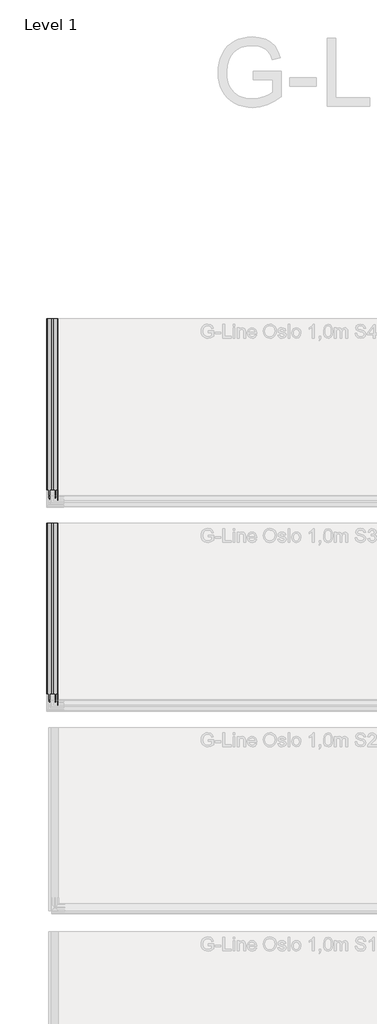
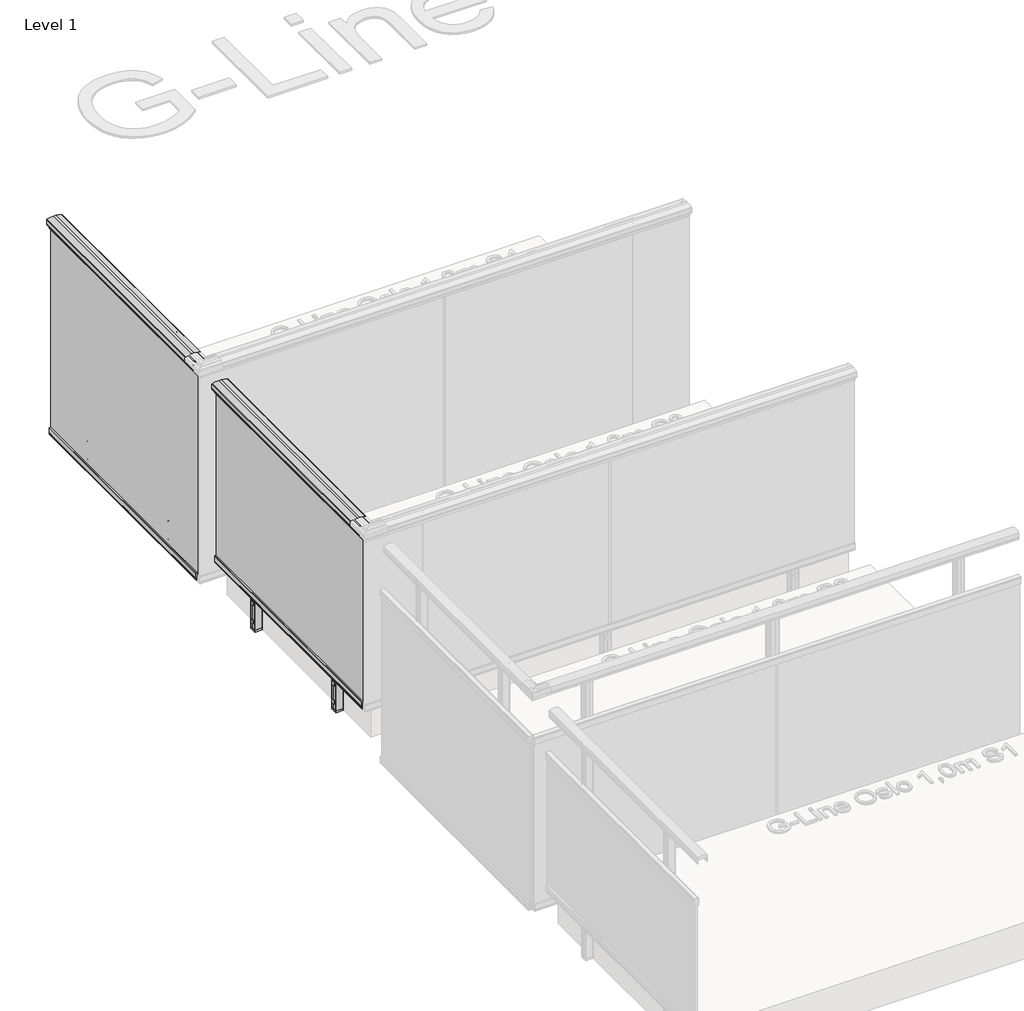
# One storey, part 44 of 66: 2 railings.
"""IFC4 building model written with IfcOpenShell, lengths in millimetres."""

from ifc_helpers import new_model, si_unit, point, frame, frame_2d, origin, place, context, project, spatial, polyline, circle_curve, trimmed, segment, composite_curve, outline, extrude, element, save

model = new_model("IFC4")

# Units and contexts
model_context = context("Model", 3, world=origin())
ifc_project = project(units=[si_unit("LENGTHUNIT", "METRE", prefix="MILLI")], contexts=[model_context])

# Site, building, storey
site = spatial("IfcSite", under=ifc_project)
building = spatial("IfcBuilding", under=site)
storey = spatial("IfcBuildingStorey", under=building, Name="Level 1", Elevation=0.0)

# Railings
placement = place(None, origin())
element("IfcRailing", 1, ObjectType="G-Line Oslo 1,0m  S4", at=placement, inside=storey, context=model_context, shape_type="SweptSolid", body=[
    extrude(outline(composite_curve([segment(polyline([(970.6825033, 4424.0540283), (970.0570224, 4424.6795093), (969.4717338, 4424.0942207), (965.5021186, 4424.0540283)]), True, "CONTINUOUS"), segment(trimmed(circle_curve(frame_2d((965.5021186, 4424.5540283)), 0.5), [point((965.5021186, 4424.0540283))], [point((965.0021186, 4424.5540283))], False, "CARTESIAN"), True, "CONTINUOUS"), segment(polyline([(965.0021186, 4424.5540283), (965.0021186, 4425.5540283), (979.5021186, 4425.5540283)]), True, "CONTINUOUS"), segment(trimmed(circle_curve(frame_2d((979.5021186, 4426.0540283)), 0.5), [point((979.5021186, 4425.5540283))], [point((980.0021186, 4426.0540283))], True, "CARTESIAN"), True, "CONTINUOUS"), segment(polyline([(980.0021186, 4426.0540283), (980.0021186, 4504.0540283)]), True, "CONTINUOUS"), segment(trimmed(circle_curve(frame_2d((979.5021186, 4504.0540283)), 0.5), [point((980.0021186, 4504.0540283))], [point((979.5021186, 4504.5540283))], True, "CARTESIAN"), True, "CONTINUOUS"), segment(polyline([(979.5021186, 4504.5540283), (965.0021186, 4504.5540283), (965.0021186, 4505.5540283)]), True, "CONTINUOUS"), segment(trimmed(circle_curve(frame_2d((965.5021186, 4505.5540283)), 0.5), [point((965.0021186, 4505.5540283))], [point((965.5021186, 4506.0540283))], False, "CARTESIAN"), True, "CONTINUOUS"), segment(polyline([(965.5021186, 4506.0540283), (969.2627449, 4506.0540283), (969.9177203, 4505.3990529), (970.5325033, 4506.0138359), (991.2139911, 4506.0540283)]), True, "CONTINUOUS"), segment(trimmed(circle_curve(frame_2d((991.2139911, 4503.0540283)), 3.0), [point((991.2139911, 4506.0540283))], [point((994.0180233, 4504.1205197))], False, "CARTESIAN"), True, "CONTINUOUS"), segment(trimmed(circle_curve(frame_2d((908.3938053, 4471.5540283)), 91.6083133), [point((994.0180233, 4504.1205197))], [point((1000.0021186, 4471.5540283))], False, "CARTESIAN"), True, "CONTINUOUS"), segment(polyline([(1000.0021186, 4471.5540283), (1000.0021186, 4458.5540283)]), True, "CONTINUOUS"), segment(trimmed(circle_curve(frame_2d((908.3938053, 4458.5540283)), 91.6083133), [point((1000.0021186, 4458.5540283))], [point((994.0180233, 4425.987537))], False, "CARTESIAN"), True, "CONTINUOUS"), segment(trimmed(circle_curve(frame_2d((991.2139911, 4427.0540283)), 3.0), [point((994.0180233, 4425.987537))], [point((991.2139911, 4424.0540283))], False, "CARTESIAN"), True, "CONTINUOUS"), segment(polyline([(991.2139911, 4424.0540283), (970.6825033, 4424.0540283)]), True, "CONTINUOUS")], self_intersect=False)), frame((0.0, 17100.2886441, 0.0), z_axis=(0.0, 1.0, 0.0), x_axis=(0.0, 0.0, 1.0)), (0.0, 0.0, 1.0), 1330.0),
    extrude(outline(composite_curve([segment(polyline([(941.0, 4455.8148386), (941.0, 4463.0547322)]), True, "CONTINUOUS"), segment(trimmed(circle_curve(frame_2d((941.5, 4463.0547322)), 0.5), [point((941.0, 4463.0547322))], [point((941.6964102, 4463.5145399))], False, "CARTESIAN"), True, "CONTINUOUS"), segment(polyline([(941.6964102, 4463.5145399), (969.6142612, 4463.5145399), (970.5701988, 4463.0913348), (971.5302866, 4463.5547322), (976.5, 4463.5547322)]), True, "CONTINUOUS"), segment(trimmed(circle_curve(frame_2d((976.5, 4462.0547322)), 1.5), [point((976.5, 4463.5547322))], [point((978.0, 4462.0547322))], False, "CARTESIAN"), True, "CONTINUOUS"), segment(polyline([(978.0, 4462.0547322), (978.0, 4440.0547322)]), True, "CONTINUOUS"), segment(trimmed(circle_curve(frame_2d((976.5, 4440.0547322)), 1.5), [point((978.0, 4440.0547322))], [point((976.5, 4438.5547322))], False, "CARTESIAN"), True, "CONTINUOUS"), segment(polyline([(976.5, 4438.5547322), (971.3802866, 4438.5949246), (970.5008136, 4439.0181297), (969.4642612, 4438.5547322), (941.5, 4438.5547322)]), True, "CONTINUOUS"), segment(trimmed(circle_curve(frame_2d((941.5, 4439.0547322)), 0.5), [point((941.5, 4438.5547322))], [point((941.0, 4439.0547322))], False, "CARTESIAN"), True, "CONTINUOUS"), segment(polyline([(941.0, 4439.0547322), (941.0, 4446.2948387), (941.0, 4455.8148386)]), True, "CONTINUOUS")], self_intersect=False)), frame((0.0, 17100.2886441, 0.0), z_axis=(0.0, 1.0, 0.0), x_axis=(0.0, 0.0, 1.0)), (0.0, 0.0, 1.0), 1330.0),
    extrude(outline(polyline([(4446.6747322, 18430.2886441), (4455.4347322, 18430.2886441), (4455.4347322, 17100.2886441), (4446.6747322, 17100.2886441), (4446.6747322, 18430.2886441)])), frame((0.0, 0.0, -200.0), z_axis=(0.0, 0.0, 1.0), x_axis=(1.0, 0.0, 0.0)), (0.0, 0.0, 1.0), 1180.0),
    extrude(outline(composite_curve([segment(polyline([(-163.0, 4446.2946259), (-163.0, 4439.0547322)]), True, "CONTINUOUS"), segment(trimmed(circle_curve(frame_2d((-163.5, 4439.0547322)), 0.5), [point((-163.0, 4439.0547322))], [point((-163.6964102, 4438.5949246))], False, "CARTESIAN"), True, "CONTINUOUS"), segment(polyline([(-163.6964102, 4438.5949246), (-191.6142612, 4438.5949246), (-192.5701988, 4439.0181297), (-193.5302866, 4438.5547322), (-198.5, 4438.5547322)]), True, "CONTINUOUS"), segment(trimmed(circle_curve(frame_2d((-198.5, 4440.0547322)), 1.5), [point((-198.5, 4438.5547322))], [point((-200.0, 4440.0547322))], False, "CARTESIAN"), True, "CONTINUOUS"), segment(polyline([(-200.0, 4440.0547322), (-200.0, 4462.0547322)]), True, "CONTINUOUS"), segment(trimmed(circle_curve(frame_2d((-198.5, 4462.0547322)), 1.5), [point((-200.0, 4462.0547322))], [point((-198.5, 4463.5547322))], False, "CARTESIAN"), True, "CONTINUOUS"), segment(polyline([(-198.5, 4463.5547322), (-193.3802866, 4463.5145399), (-192.5008136, 4463.0913348), (-191.4642612, 4463.5547322), (-163.5, 4463.5547322)]), True, "CONTINUOUS"), segment(trimmed(circle_curve(frame_2d((-163.5, 4463.0547322)), 0.5), [point((-163.5, 4463.5547322))], [point((-163.0, 4463.0547322))], False, "CARTESIAN"), True, "CONTINUOUS"), segment(polyline([(-163.0, 4463.0547322), (-163.0, 4455.8146258), (-163.0, 4446.2946259)]), True, "CONTINUOUS")], self_intersect=False)), frame((0.0, 17100.2886441, 0.0), z_axis=(0.0, 1.0, 0.0), x_axis=(0.0, 0.0, 1.0)), (0.0, 0.0, 1.0), 1330.0),
    extrude(outline(composite_curve([segment(polyline([(4504.0547322, 17399.4858571), (4504.0547322, 17382.4625571)]), True, "CONTINUOUS"), segment(trimmed(circle_curve(frame_2d((4501.8808192, 17382.4625571)), 2.173913), [point((4504.0547322, 17382.4625571))], [point((4501.8808192, 17380.2886441))], False, "CARTESIAN"), True, "CONTINUOUS"), segment(polyline([(4501.8808192, 17380.2886441), (4466.2286453, 17380.2886441)]), True, "CONTINUOUS"), segment(trimmed(circle_curve(frame_2d((4466.2286453, 17382.4625571)), 2.173913), [point((4466.2286453, 17380.2886441))], [point((4464.0547322, 17382.4625571))], False, "CARTESIAN"), True, "CONTINUOUS"), segment(polyline([(4464.0547322, 17382.4625571), (4464.0896821, 17399.520807), (4464.8575193, 17400.2886441), (4464.0896821, 17401.0564812), (4464.0547322, 17418.114731)]), True, "CONTINUOUS"), segment(trimmed(circle_curve(frame_2d((4466.2286453, 17418.114731)), 2.173913), [point((4464.0547322, 17418.114731))], [point((4466.2286453, 17420.2886441))], False, "CARTESIAN"), True, "CONTINUOUS"), segment(polyline([(4466.2286453, 17420.2886441), (4501.8808192, 17420.2886441)]), True, "CONTINUOUS"), segment(trimmed(circle_curve(frame_2d((4501.8808192, 17418.114731)), 2.173913), [point((4501.8808192, 17420.2886441))], [point((4504.0547322, 17418.1147311))], False, "CARTESIAN"), True, "CONTINUOUS"), segment(polyline([(4504.0547322, 17418.1147311), (4504.0197823, 17401.0564812), (4503.2519452, 17400.2886441), (4504.0547322, 17399.4858571)]), True, "CONTINUOUS")], self_intersect=False)), frame((0.0, 0.0, -200.0), z_axis=(0.0, 0.0, 1.0), x_axis=(1.0, 0.0, 0.0)), (0.0, 0.0, 1.0), 10.0),
    extrude(outline(composite_curve([segment(trimmed(circle_curve(frame_2d((4501.8808192, 17418.114731)), 2.173913), [point((4501.8808192, 17420.2886441))], [point((4504.0547322, 17418.114731))], False, "CARTESIAN"), True, "CONTINUOUS"), segment(polyline([(4504.0547322, 17418.114731), (4504.0197823, 17401.0564812), (4503.6517779, 17400.1582093), (4504.0547322, 17399.3903722), (4504.0547322, 17382.4625571)]), True, "CONTINUOUS"), segment(trimmed(circle_curve(frame_2d((4501.8808192, 17382.4625571)), 2.173913), [point((4504.0547322, 17382.4625571))], [point((4501.8808192, 17380.2886441))], False, "CARTESIAN"), True, "CONTINUOUS"), segment(polyline([(4501.8808192, 17380.2886441), (4466.2286453, 17380.2886441)]), True, "CONTINUOUS"), segment(trimmed(circle_curve(frame_2d((4466.2286453, 17382.4625571)), 2.173913), [point((4466.2286453, 17380.2886441))], [point((4464.0547322, 17382.4625571))], False, "CARTESIAN"), True, "CONTINUOUS"), segment(polyline([(4464.0547322, 17382.4625571), (4464.0896821, 17399.520807), (4464.8575193, 17400.2886441), (4464.0896821, 17401.0564812), (4464.0547322, 17418.114731)]), True, "CONTINUOUS"), segment(trimmed(circle_curve(frame_2d((4466.2286453, 17418.114731)), 2.173913), [point((4464.0547322, 17418.114731))], [point((4466.2286453, 17420.2886441))], False, "CARTESIAN"), True, "CONTINUOUS"), segment(polyline([(4466.2286453, 17420.2886441), (4501.8808192, 17420.2886441)]), True, "CONTINUOUS")], self_intersect=False), holes=[composite_curve([segment(polyline([(4499.7069062, 17416.8103832), (4468.4025583, 17416.8103832)]), True, "CONTINUOUS"), segment(trimmed(circle_curve(frame_2d((4468.4025583, 17415.940818)), 0.8695652), [point((4468.4025583, 17416.8103832))], [point((4467.5329931, 17415.940818))], True, "CARTESIAN"), True, "CONTINUOUS"), segment(polyline([(4467.5329931, 17415.940818), (4467.5329931, 17384.6364702)]), True, "CONTINUOUS"), segment(trimmed(circle_curve(frame_2d((4468.4025583, 17384.6364702)), 0.8695652), [point((4467.5329931, 17384.6364702))], [point((4468.4025583, 17383.766905))], True, "CARTESIAN"), True, "CONTINUOUS"), segment(polyline([(4468.4025583, 17383.766905), (4499.7069062, 17383.766905)]), True, "CONTINUOUS"), segment(trimmed(circle_curve(frame_2d((4499.7069062, 17384.6364702)), 0.8695652), [point((4499.7069062, 17383.766905))], [point((4500.5764714, 17384.6364702))], True, "CARTESIAN"), True, "CONTINUOUS"), segment(polyline([(4500.5764714, 17384.6364702), (4500.5764714, 17415.940818)]), True, "CONTINUOUS"), segment(trimmed(circle_curve(frame_2d((4499.7069062, 17415.940818)), 0.8695652), [point((4500.5764714, 17415.940818))], [point((4499.7069062, 17416.8103832))], True, "CARTESIAN"), True, "CONTINUOUS")], self_intersect=False)]), frame((0.0, 0.0, -190.0), z_axis=(0.0, 0.0, 1.0), x_axis=(1.0, 0.0, 0.0)), (0.0, 0.0, 1.0), 1171.0),
    extrude(outline(composite_curve([segment(trimmed(circle_curve(frame_2d((0.0, 12.0000001)), 12.0), [point((0.0, 24.0))], [point((0.0, 0.0))], False, "CARTESIAN"), True, "CONTINUOUS"), segment(trimmed(circle_curve(frame_2d((0.0, 12.0000001)), 12.0), [point((0.0, 0.0))], [point((0.0, 24.0))], False, "CARTESIAN"), True, "CONTINUOUS")], self_intersect=False)), frame((4464.0666505, 17412.2976817, -151.0), z_axis=(-0.9999999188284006, 0.00040291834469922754, 0.0), x_axis=(0.0, 0.0, -1.0)), (0.0, 0.0, 1.0), 3.0757477),
    extrude(outline(composite_curve([segment(trimmed(circle_curve(frame_2d((0.0, 12.0000001)), 12.0), [point((0.0, 24.0))], [point((0.0, 0.0))], False, "CARTESIAN"), True, "CONTINUOUS"), segment(trimmed(circle_curve(frame_2d((0.0, 12.0000001)), 12.0), [point((0.0, 0.0))], [point((0.0, 24.0))], False, "CARTESIAN"), True, "CONTINUOUS")], self_intersect=False)), frame((4464.0666505, 17412.2976817, -50.0), z_axis=(-0.9999999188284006, 0.00040291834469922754, 0.0), x_axis=(0.0, 0.0, -1.0)), (0.0, 0.0, 1.0), 3.0757477),
    extrude(outline(composite_curve([segment(polyline([(4504.0547322, 18129.4858571), (4504.0547322, 18112.4625571)]), True, "CONTINUOUS"), segment(trimmed(circle_curve(frame_2d((4501.8808192, 18112.4625571)), 2.173913), [point((4504.0547322, 18112.4625571))], [point((4501.8808192, 18110.2886441))], False, "CARTESIAN"), True, "CONTINUOUS"), segment(polyline([(4501.8808192, 18110.2886441), (4466.2286453, 18110.2886441)]), True, "CONTINUOUS"), segment(trimmed(circle_curve(frame_2d((4466.2286453, 18112.4625571)), 2.173913), [point((4466.2286453, 18110.2886441))], [point((4464.0547322, 18112.4625571))], False, "CARTESIAN"), True, "CONTINUOUS"), segment(polyline([(4464.0547322, 18112.4625571), (4464.0896821, 18129.520807), (4464.8575193, 18130.2886441), (4464.0896821, 18131.0564812), (4464.0547322, 18148.114731)]), True, "CONTINUOUS"), segment(trimmed(circle_curve(frame_2d((4466.2286453, 18148.114731)), 2.173913), [point((4464.0547322, 18148.114731))], [point((4466.2286453, 18150.2886441))], False, "CARTESIAN"), True, "CONTINUOUS"), segment(polyline([(4466.2286453, 18150.2886441), (4501.8808192, 18150.2886441)]), True, "CONTINUOUS"), segment(trimmed(circle_curve(frame_2d((4501.8808192, 18148.114731)), 2.173913), [point((4501.8808192, 18150.2886441))], [point((4504.0547322, 18148.1147311))], False, "CARTESIAN"), True, "CONTINUOUS"), segment(polyline([(4504.0547322, 18148.1147311), (4504.0197823, 18131.0564812), (4503.2519452, 18130.2886441), (4504.0547322, 18129.4858571)]), True, "CONTINUOUS")], self_intersect=False)), frame((0.0, 0.0, -200.0), z_axis=(0.0, 0.0, 1.0), x_axis=(1.0, 0.0, 0.0)), (0.0, 0.0, 1.0), 10.0),
    extrude(outline(composite_curve([segment(trimmed(circle_curve(frame_2d((4501.8808192, 18148.114731)), 2.173913), [point((4501.8808192, 18150.2886441))], [point((4504.0547322, 18148.114731))], False, "CARTESIAN"), True, "CONTINUOUS"), segment(polyline([(4504.0547322, 18148.114731), (4504.0197823, 18131.0564812), (4503.6517779, 18130.1582093), (4504.0547322, 18129.3903722), (4504.0547322, 18112.4625571)]), True, "CONTINUOUS"), segment(trimmed(circle_curve(frame_2d((4501.8808192, 18112.4625571)), 2.173913), [point((4504.0547322, 18112.4625571))], [point((4501.8808192, 18110.2886441))], False, "CARTESIAN"), True, "CONTINUOUS"), segment(polyline([(4501.8808192, 18110.2886441), (4466.2286453, 18110.2886441)]), True, "CONTINUOUS"), segment(trimmed(circle_curve(frame_2d((4466.2286453, 18112.4625571)), 2.173913), [point((4466.2286453, 18110.2886441))], [point((4464.0547322, 18112.4625571))], False, "CARTESIAN"), True, "CONTINUOUS"), segment(polyline([(4464.0547322, 18112.4625571), (4464.0896821, 18129.520807), (4464.8575193, 18130.2886441), (4464.0896821, 18131.0564812), (4464.0547322, 18148.114731)]), True, "CONTINUOUS"), segment(trimmed(circle_curve(frame_2d((4466.2286453, 18148.114731)), 2.173913), [point((4464.0547322, 18148.114731))], [point((4466.2286453, 18150.2886441))], False, "CARTESIAN"), True, "CONTINUOUS"), segment(polyline([(4466.2286453, 18150.2886441), (4501.8808192, 18150.2886441)]), True, "CONTINUOUS")], self_intersect=False), holes=[composite_curve([segment(polyline([(4499.7069062, 18146.8103832), (4468.4025583, 18146.8103832)]), True, "CONTINUOUS"), segment(trimmed(circle_curve(frame_2d((4468.4025583, 18145.940818)), 0.8695652), [point((4468.4025583, 18146.8103832))], [point((4467.5329931, 18145.940818))], True, "CARTESIAN"), True, "CONTINUOUS"), segment(polyline([(4467.5329931, 18145.940818), (4467.5329931, 18114.6364702)]), True, "CONTINUOUS"), segment(trimmed(circle_curve(frame_2d((4468.4025583, 18114.6364702)), 0.8695652), [point((4467.5329931, 18114.6364702))], [point((4468.4025583, 18113.766905))], True, "CARTESIAN"), True, "CONTINUOUS"), segment(polyline([(4468.4025583, 18113.766905), (4499.7069062, 18113.766905)]), True, "CONTINUOUS"), segment(trimmed(circle_curve(frame_2d((4499.7069062, 18114.6364702)), 0.8695652), [point((4499.7069062, 18113.766905))], [point((4500.5764714, 18114.6364702))], True, "CARTESIAN"), True, "CONTINUOUS"), segment(polyline([(4500.5764714, 18114.6364702), (4500.5764714, 18145.940818)]), True, "CONTINUOUS"), segment(trimmed(circle_curve(frame_2d((4499.7069062, 18145.940818)), 0.8695652), [point((4500.5764714, 18145.940818))], [point((4499.7069062, 18146.8103832))], True, "CARTESIAN"), True, "CONTINUOUS")], self_intersect=False)]), frame((0.0, 0.0, -190.0), z_axis=(0.0, 0.0, 1.0), x_axis=(1.0, 0.0, 0.0)), (0.0, 0.0, 1.0), 1171.0),
    extrude(outline(composite_curve([segment(trimmed(circle_curve(frame_2d((0.0, 12.0000001)), 12.0), [point((0.0, 24.0))], [point((0.0, 0.0))], False, "CARTESIAN"), True, "CONTINUOUS"), segment(trimmed(circle_curve(frame_2d((0.0, 12.0000001)), 12.0), [point((0.0, 0.0))], [point((0.0, 24.0))], False, "CARTESIAN"), True, "CONTINUOUS")], self_intersect=False)), frame((4464.0666505, 18142.2976817, -151.0), z_axis=(-0.9999999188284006, 0.00040291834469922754, 0.0), x_axis=(0.0, 0.0, -1.0)), (0.0, 0.0, 1.0), 3.0757477),
    extrude(outline(composite_curve([segment(trimmed(circle_curve(frame_2d((0.0, 12.0000001)), 12.0), [point((0.0, 24.0))], [point((0.0, 0.0))], False, "CARTESIAN"), True, "CONTINUOUS"), segment(trimmed(circle_curve(frame_2d((0.0, 12.0000001)), 12.0), [point((0.0, 0.0))], [point((0.0, 24.0))], False, "CARTESIAN"), True, "CONTINUOUS")], self_intersect=False)), frame((4464.0666505, 18142.2976817, -50.0), z_axis=(-0.9999999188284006, 0.00040291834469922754, 0.0), x_axis=(0.0, 0.0, -1.0)), (0.0, 0.0, 1.0), 3.0757477),
])
element("IfcRailing", 2, ObjectType="G-Line Oslo 1,0m  S3", at=placement, inside=storey, context=model_context, shape_type="SweptSolid", body=[
    extrude(outline(composite_curve([segment(polyline([(970.6825033, 4424.0540283), (970.0570224, 4424.6795093), (969.4717338, 4424.0942207), (965.5021186, 4424.0540283)]), True, "CONTINUOUS"), segment(trimmed(circle_curve(frame_2d((965.5021186, 4424.5540283)), 0.5), [point((965.5021186, 4424.0540283))], [point((965.0021186, 4424.5540283))], False, "CARTESIAN"), True, "CONTINUOUS"), segment(polyline([(965.0021186, 4424.5540283), (965.0021186, 4425.5540283), (979.5021186, 4425.5540283)]), True, "CONTINUOUS"), segment(trimmed(circle_curve(frame_2d((979.5021186, 4426.0540283)), 0.5), [point((979.5021186, 4425.5540283))], [point((980.0021186, 4426.0540283))], True, "CARTESIAN"), True, "CONTINUOUS"), segment(polyline([(980.0021186, 4426.0540283), (980.0021186, 4504.0540283)]), True, "CONTINUOUS"), segment(trimmed(circle_curve(frame_2d((979.5021186, 4504.0540283)), 0.5), [point((980.0021186, 4504.0540283))], [point((979.5021186, 4504.5540283))], True, "CARTESIAN"), True, "CONTINUOUS"), segment(polyline([(979.5021186, 4504.5540283), (965.0021186, 4504.5540283), (965.0021186, 4505.5540283)]), True, "CONTINUOUS"), segment(trimmed(circle_curve(frame_2d((965.5021186, 4505.5540283)), 0.5), [point((965.0021186, 4505.5540283))], [point((965.5021186, 4506.0540283))], False, "CARTESIAN"), True, "CONTINUOUS"), segment(polyline([(965.5021186, 4506.0540283), (969.2627449, 4506.0540283), (969.9177203, 4505.3990529), (970.5325033, 4506.0138359), (991.2139911, 4506.0540283)]), True, "CONTINUOUS"), segment(trimmed(circle_curve(frame_2d((991.2139911, 4503.0540283)), 3.0), [point((991.2139911, 4506.0540283))], [point((994.0180233, 4504.1205197))], False, "CARTESIAN"), True, "CONTINUOUS"), segment(trimmed(circle_curve(frame_2d((908.3938053, 4471.5540283)), 91.6083133), [point((994.0180233, 4504.1205197))], [point((1000.0021186, 4471.5540283))], False, "CARTESIAN"), True, "CONTINUOUS"), segment(polyline([(1000.0021186, 4471.5540283), (1000.0021186, 4458.5540283)]), True, "CONTINUOUS"), segment(trimmed(circle_curve(frame_2d((908.3938053, 4458.5540283)), 91.6083133), [point((1000.0021186, 4458.5540283))], [point((994.0180233, 4425.987537))], False, "CARTESIAN"), True, "CONTINUOUS"), segment(trimmed(circle_curve(frame_2d((991.2139911, 4427.0540283)), 3.0), [point((994.0180233, 4425.987537))], [point((991.2139911, 4424.0540283))], False, "CARTESIAN"), True, "CONTINUOUS"), segment(polyline([(991.2139911, 4424.0540283), (970.6825033, 4424.0540283)]), True, "CONTINUOUS")], self_intersect=False)), frame((0.0, 15595.2886441, 0.0), z_axis=(0.0, 1.0, 0.0), x_axis=(0.0, 0.0, 1.0)), (0.0, 0.0, 1.0), 1335.0),
    extrude(outline(composite_curve([segment(polyline([(941.0, 4455.8148386), (941.0, 4463.0547322)]), True, "CONTINUOUS"), segment(trimmed(circle_curve(frame_2d((941.5, 4463.0547322)), 0.5), [point((941.0, 4463.0547322))], [point((941.6964102, 4463.5145399))], False, "CARTESIAN"), True, "CONTINUOUS"), segment(polyline([(941.6964102, 4463.5145399), (969.6142612, 4463.5145399), (970.5701988, 4463.0913348), (971.5302866, 4463.5547322), (976.5, 4463.5547322)]), True, "CONTINUOUS"), segment(trimmed(circle_curve(frame_2d((976.5, 4462.0547322)), 1.5), [point((976.5, 4463.5547322))], [point((978.0, 4462.0547322))], False, "CARTESIAN"), True, "CONTINUOUS"), segment(polyline([(978.0, 4462.0547322), (978.0, 4440.0547322)]), True, "CONTINUOUS"), segment(trimmed(circle_curve(frame_2d((976.5, 4440.0547322)), 1.5), [point((978.0, 4440.0547322))], [point((976.5, 4438.5547322))], False, "CARTESIAN"), True, "CONTINUOUS"), segment(polyline([(976.5, 4438.5547322), (971.3802866, 4438.5949246), (970.5008136, 4439.0181297), (969.4642612, 4438.5547322), (941.5, 4438.5547322)]), True, "CONTINUOUS"), segment(trimmed(circle_curve(frame_2d((941.5, 4439.0547322)), 0.5), [point((941.5, 4438.5547322))], [point((941.0, 4439.0547322))], False, "CARTESIAN"), True, "CONTINUOUS"), segment(polyline([(941.0, 4439.0547322), (941.0, 4446.2948387), (941.0, 4455.8148386)]), True, "CONTINUOUS")], self_intersect=False)), frame((0.0, 15595.2886441, 0.0), z_axis=(0.0, 1.0, 0.0), x_axis=(0.0, 0.0, 1.0)), (0.0, 0.0, 1.0), 1335.0),
    extrude(outline(polyline([(4446.6747322, 16930.2886441), (4455.4347322, 16930.2886441), (4455.4347322, 15595.2886441), (4446.6747322, 15595.2886441), (4446.6747322, 16930.2886441)])), frame((0.0, 0.0, 28.0), z_axis=(0.0, 0.0, 1.0), x_axis=(1.0, 0.0, 0.0)), (0.0, 0.0, 1.0), 952.0),
    extrude(outline(composite_curve([segment(polyline([(37.0, 4446.2946259), (37.0, 4439.0547322)]), True, "CONTINUOUS"), segment(trimmed(circle_curve(frame_2d((36.5, 4439.0547322)), 0.5), [point((37.0, 4439.0547322))], [point((36.3035898, 4438.5949246))], False, "CARTESIAN"), True, "CONTINUOUS"), segment(polyline([(36.3035898, 4438.5949246), (8.3857388, 4438.5949246), (7.4298012, 4439.0181297), (6.4697134, 4438.5547322), (1.5, 4438.5547322)]), True, "CONTINUOUS"), segment(trimmed(circle_curve(frame_2d((1.5, 4440.0547322)), 1.5), [point((1.5, 4438.5547322))], [point((0.0, 4440.0547322))], False, "CARTESIAN"), True, "CONTINUOUS"), segment(polyline([(0.0, 4440.0547322), (0.0, 4462.0547322)]), True, "CONTINUOUS"), segment(trimmed(circle_curve(frame_2d((1.5, 4462.0547322)), 1.5), [point((0.0, 4462.0547322))], [point((1.5, 4463.5547322))], False, "CARTESIAN"), True, "CONTINUOUS"), segment(polyline([(1.5, 4463.5547322), (6.6197134, 4463.5145399), (7.4991864, 4463.0913348), (8.5357388, 4463.5547322), (36.5, 4463.5547322)]), True, "CONTINUOUS"), segment(trimmed(circle_curve(frame_2d((36.5, 4463.0547322)), 0.5), [point((36.5, 4463.5547322))], [point((37.0, 4463.0547322))], False, "CARTESIAN"), True, "CONTINUOUS"), segment(polyline([(37.0, 4463.0547322), (37.0, 4455.8146258), (37.0, 4446.2946259)]), True, "CONTINUOUS")], self_intersect=False)), frame((0.0, 15595.2886441, 0.0), z_axis=(0.0, 1.0, 0.0), x_axis=(0.0, 0.0, 1.0)), (0.0, 0.0, 1.0), 1335.0),
    extrude(outline(composite_curve([segment(polyline([(4504.0547322, 15894.4858571), (4504.0547322, 15877.4625571)]), True, "CONTINUOUS"), segment(trimmed(circle_curve(frame_2d((4501.8808192, 15877.4625571)), 2.173913), [point((4504.0547322, 15877.4625571))], [point((4501.8808192, 15875.2886441))], False, "CARTESIAN"), True, "CONTINUOUS"), segment(polyline([(4501.8808192, 15875.2886441), (4466.2286453, 15875.2886441)]), True, "CONTINUOUS"), segment(trimmed(circle_curve(frame_2d((4466.2286453, 15877.4625571)), 2.173913), [point((4466.2286453, 15875.2886441))], [point((4464.0547322, 15877.4625571))], False, "CARTESIAN"), True, "CONTINUOUS"), segment(polyline([(4464.0547322, 15877.4625571), (4464.0896821, 15894.520807), (4464.8575193, 15895.2886441), (4464.0896821, 15896.0564812), (4464.0547322, 15913.114731)]), True, "CONTINUOUS"), segment(trimmed(circle_curve(frame_2d((4466.2286453, 15913.114731)), 2.173913), [point((4464.0547322, 15913.114731))], [point((4466.2286453, 15915.2886441))], False, "CARTESIAN"), True, "CONTINUOUS"), segment(polyline([(4466.2286453, 15915.2886441), (4501.8808192, 15915.2886441)]), True, "CONTINUOUS"), segment(trimmed(circle_curve(frame_2d((4501.8808192, 15913.114731)), 2.173913), [point((4501.8808192, 15915.2886441))], [point((4504.0547322, 15913.1147311))], False, "CARTESIAN"), True, "CONTINUOUS"), segment(polyline([(4504.0547322, 15913.1147311), (4504.0197823, 15896.0564812), (4503.2519452, 15895.2886441), (4504.0547322, 15894.4858571)]), True, "CONTINUOUS")], self_intersect=False)), frame((0.0, 0.0, -200.0), z_axis=(0.0, 0.0, 1.0), x_axis=(1.0, 0.0, 0.0)), (0.0, 0.0, 1.0), 10.0),
    extrude(outline(composite_curve([segment(trimmed(circle_curve(frame_2d((4501.8808192, 15913.114731)), 2.173913), [point((4501.8808192, 15915.2886441))], [point((4504.0547322, 15913.114731))], False, "CARTESIAN"), True, "CONTINUOUS"), segment(polyline([(4504.0547322, 15913.114731), (4504.0197823, 15896.0564812), (4503.6517779, 15895.1582093), (4504.0547322, 15894.3903722), (4504.0547322, 15877.4625571)]), True, "CONTINUOUS"), segment(trimmed(circle_curve(frame_2d((4501.8808192, 15877.4625571)), 2.173913), [point((4504.0547322, 15877.4625571))], [point((4501.8808192, 15875.2886441))], False, "CARTESIAN"), True, "CONTINUOUS"), segment(polyline([(4501.8808192, 15875.2886441), (4466.2286453, 15875.2886441)]), True, "CONTINUOUS"), segment(trimmed(circle_curve(frame_2d((4466.2286453, 15877.4625571)), 2.173913), [point((4466.2286453, 15875.2886441))], [point((4464.0547322, 15877.4625571))], False, "CARTESIAN"), True, "CONTINUOUS"), segment(polyline([(4464.0547322, 15877.4625571), (4464.0896821, 15894.520807), (4464.8575193, 15895.2886441), (4464.0896821, 15896.0564812), (4464.0547322, 15913.114731)]), True, "CONTINUOUS"), segment(trimmed(circle_curve(frame_2d((4466.2286453, 15913.114731)), 2.173913), [point((4464.0547322, 15913.114731))], [point((4466.2286453, 15915.2886441))], False, "CARTESIAN"), True, "CONTINUOUS"), segment(polyline([(4466.2286453, 15915.2886441), (4501.8808192, 15915.2886441)]), True, "CONTINUOUS")], self_intersect=False), holes=[composite_curve([segment(polyline([(4499.7069062, 15911.8103832), (4468.4025583, 15911.8103832)]), True, "CONTINUOUS"), segment(trimmed(circle_curve(frame_2d((4468.4025583, 15910.940818)), 0.8695652), [point((4468.4025583, 15911.8103832))], [point((4467.5329931, 15910.940818))], True, "CARTESIAN"), True, "CONTINUOUS"), segment(polyline([(4467.5329931, 15910.940818), (4467.5329931, 15879.6364702)]), True, "CONTINUOUS"), segment(trimmed(circle_curve(frame_2d((4468.4025583, 15879.6364702)), 0.8695652), [point((4467.5329931, 15879.6364702))], [point((4468.4025583, 15878.766905))], True, "CARTESIAN"), True, "CONTINUOUS"), segment(polyline([(4468.4025583, 15878.766905), (4499.7069062, 15878.766905)]), True, "CONTINUOUS"), segment(trimmed(circle_curve(frame_2d((4499.7069062, 15879.6364702)), 0.8695652), [point((4499.7069062, 15878.766905))], [point((4500.5764714, 15879.6364702))], True, "CARTESIAN"), True, "CONTINUOUS"), segment(polyline([(4500.5764714, 15879.6364702), (4500.5764714, 15910.940818)]), True, "CONTINUOUS"), segment(trimmed(circle_curve(frame_2d((4499.7069062, 15910.940818)), 0.8695652), [point((4500.5764714, 15910.940818))], [point((4499.7069062, 15911.8103832))], True, "CARTESIAN"), True, "CONTINUOUS")], self_intersect=False)]), frame((0.0, 0.0, -190.0), z_axis=(0.0, 0.0, 1.0), x_axis=(1.0, 0.0, 0.0)), (0.0, 0.0, 1.0), 1171.0),
    extrude(outline(composite_curve([segment(trimmed(circle_curve(frame_2d((0.0, 12.0000001)), 12.0), [point((0.0, 24.0))], [point((0.0, 0.0))], False, "CARTESIAN"), True, "CONTINUOUS"), segment(trimmed(circle_curve(frame_2d((0.0, 12.0000001)), 12.0), [point((0.0, 0.0))], [point((0.0, 24.0))], False, "CARTESIAN"), True, "CONTINUOUS")], self_intersect=False)), frame((4464.0666505, 15907.2976817, -151.0), z_axis=(-0.9999999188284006, 0.00040291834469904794, 0.0), x_axis=(0.0, 0.0, -1.0)), (0.0, 0.0, 1.0), 3.0757477),
    extrude(outline(composite_curve([segment(trimmed(circle_curve(frame_2d((0.0, 12.0000001)), 12.0), [point((0.0, 24.0))], [point((0.0, 0.0))], False, "CARTESIAN"), True, "CONTINUOUS"), segment(trimmed(circle_curve(frame_2d((0.0, 12.0000001)), 12.0), [point((0.0, 0.0))], [point((0.0, 24.0))], False, "CARTESIAN"), True, "CONTINUOUS")], self_intersect=False)), frame((4464.0666505, 15907.2976817, -50.0), z_axis=(-0.9999999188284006, 0.00040291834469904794, 0.0), x_axis=(0.0, 0.0, -1.0)), (0.0, 0.0, 1.0), 3.0757477),
    extrude(outline(composite_curve([segment(polyline([(4504.0547322, 16629.4858571), (4504.0547322, 16612.4625571)]), True, "CONTINUOUS"), segment(trimmed(circle_curve(frame_2d((4501.8808192, 16612.4625571)), 2.173913), [point((4504.0547322, 16612.4625571))], [point((4501.8808192, 16610.2886441))], False, "CARTESIAN"), True, "CONTINUOUS"), segment(polyline([(4501.8808192, 16610.2886441), (4466.2286453, 16610.2886441)]), True, "CONTINUOUS"), segment(trimmed(circle_curve(frame_2d((4466.2286453, 16612.4625571)), 2.173913), [point((4466.2286453, 16610.2886441))], [point((4464.0547322, 16612.4625571))], False, "CARTESIAN"), True, "CONTINUOUS"), segment(polyline([(4464.0547322, 16612.4625571), (4464.0896821, 16629.520807), (4464.8575193, 16630.2886441), (4464.0896821, 16631.0564812), (4464.0547322, 16648.114731)]), True, "CONTINUOUS"), segment(trimmed(circle_curve(frame_2d((4466.2286453, 16648.114731)), 2.173913), [point((4464.0547322, 16648.114731))], [point((4466.2286453, 16650.2886441))], False, "CARTESIAN"), True, "CONTINUOUS"), segment(polyline([(4466.2286453, 16650.2886441), (4501.8808192, 16650.2886441)]), True, "CONTINUOUS"), segment(trimmed(circle_curve(frame_2d((4501.8808192, 16648.114731)), 2.173913), [point((4501.8808192, 16650.2886441))], [point((4504.0547322, 16648.1147311))], False, "CARTESIAN"), True, "CONTINUOUS"), segment(polyline([(4504.0547322, 16648.1147311), (4504.0197823, 16631.0564812), (4503.2519452, 16630.2886441), (4504.0547322, 16629.4858571)]), True, "CONTINUOUS")], self_intersect=False)), frame((0.0, 0.0, -200.0), z_axis=(0.0, 0.0, 1.0), x_axis=(1.0, 0.0, 0.0)), (0.0, 0.0, 1.0), 10.0),
    extrude(outline(composite_curve([segment(trimmed(circle_curve(frame_2d((4501.8808192, 16648.114731)), 2.173913), [point((4501.8808192, 16650.2886441))], [point((4504.0547322, 16648.114731))], False, "CARTESIAN"), True, "CONTINUOUS"), segment(polyline([(4504.0547322, 16648.114731), (4504.0197823, 16631.0564812), (4503.6517779, 16630.1582093), (4504.0547322, 16629.3903722), (4504.0547322, 16612.4625571)]), True, "CONTINUOUS"), segment(trimmed(circle_curve(frame_2d((4501.8808192, 16612.4625571)), 2.173913), [point((4504.0547322, 16612.4625571))], [point((4501.8808192, 16610.2886441))], False, "CARTESIAN"), True, "CONTINUOUS"), segment(polyline([(4501.8808192, 16610.2886441), (4466.2286453, 16610.2886441)]), True, "CONTINUOUS"), segment(trimmed(circle_curve(frame_2d((4466.2286453, 16612.4625571)), 2.173913), [point((4466.2286453, 16610.2886441))], [point((4464.0547322, 16612.4625571))], False, "CARTESIAN"), True, "CONTINUOUS"), segment(polyline([(4464.0547322, 16612.4625571), (4464.0896821, 16629.520807), (4464.8575193, 16630.2886441), (4464.0896821, 16631.0564812), (4464.0547322, 16648.114731)]), True, "CONTINUOUS"), segment(trimmed(circle_curve(frame_2d((4466.2286453, 16648.114731)), 2.173913), [point((4464.0547322, 16648.114731))], [point((4466.2286453, 16650.2886441))], False, "CARTESIAN"), True, "CONTINUOUS"), segment(polyline([(4466.2286453, 16650.2886441), (4501.8808192, 16650.2886441)]), True, "CONTINUOUS")], self_intersect=False), holes=[composite_curve([segment(polyline([(4499.7069062, 16646.8103832), (4468.4025583, 16646.8103832)]), True, "CONTINUOUS"), segment(trimmed(circle_curve(frame_2d((4468.4025583, 16645.940818)), 0.8695652), [point((4468.4025583, 16646.8103832))], [point((4467.5329931, 16645.940818))], True, "CARTESIAN"), True, "CONTINUOUS"), segment(polyline([(4467.5329931, 16645.940818), (4467.5329931, 16614.6364702)]), True, "CONTINUOUS"), segment(trimmed(circle_curve(frame_2d((4468.4025583, 16614.6364702)), 0.8695652), [point((4467.5329931, 16614.6364702))], [point((4468.4025583, 16613.766905))], True, "CARTESIAN"), True, "CONTINUOUS"), segment(polyline([(4468.4025583, 16613.766905), (4499.7069062, 16613.766905)]), True, "CONTINUOUS"), segment(trimmed(circle_curve(frame_2d((4499.7069062, 16614.6364702)), 0.8695652), [point((4499.7069062, 16613.766905))], [point((4500.5764714, 16614.6364702))], True, "CARTESIAN"), True, "CONTINUOUS"), segment(polyline([(4500.5764714, 16614.6364702), (4500.5764714, 16645.940818)]), True, "CONTINUOUS"), segment(trimmed(circle_curve(frame_2d((4499.7069062, 16645.940818)), 0.8695652), [point((4500.5764714, 16645.940818))], [point((4499.7069062, 16646.8103832))], True, "CARTESIAN"), True, "CONTINUOUS")], self_intersect=False)]), frame((0.0, 0.0, -190.0), z_axis=(0.0, 0.0, 1.0), x_axis=(1.0, 0.0, 0.0)), (0.0, 0.0, 1.0), 1171.0),
    extrude(outline(composite_curve([segment(trimmed(circle_curve(frame_2d((0.0, 12.0000001)), 12.0), [point((0.0, 24.0))], [point((0.0, 0.0))], False, "CARTESIAN"), True, "CONTINUOUS"), segment(trimmed(circle_curve(frame_2d((0.0, 12.0000001)), 12.0), [point((0.0, 0.0))], [point((0.0, 24.0))], False, "CARTESIAN"), True, "CONTINUOUS")], self_intersect=False)), frame((4464.0666505, 16642.2976817, -151.0), z_axis=(-0.9999999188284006, 0.00040291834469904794, 0.0), x_axis=(0.0, 0.0, -1.0)), (0.0, 0.0, 1.0), 3.0757477),
    extrude(outline(composite_curve([segment(trimmed(circle_curve(frame_2d((0.0, 12.0000001)), 12.0), [point((0.0, 24.0))], [point((0.0, 0.0))], False, "CARTESIAN"), True, "CONTINUOUS"), segment(trimmed(circle_curve(frame_2d((0.0, 12.0000001)), 12.0), [point((0.0, 0.0))], [point((0.0, 24.0))], False, "CARTESIAN"), True, "CONTINUOUS")], self_intersect=False)), frame((4464.0666505, 16642.2976817, -50.0), z_axis=(-0.9999999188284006, 0.00040291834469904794, 0.0), x_axis=(0.0, 0.0, -1.0)), (0.0, 0.0, 1.0), 3.0757477),
])

save(model, "model.ifc")
